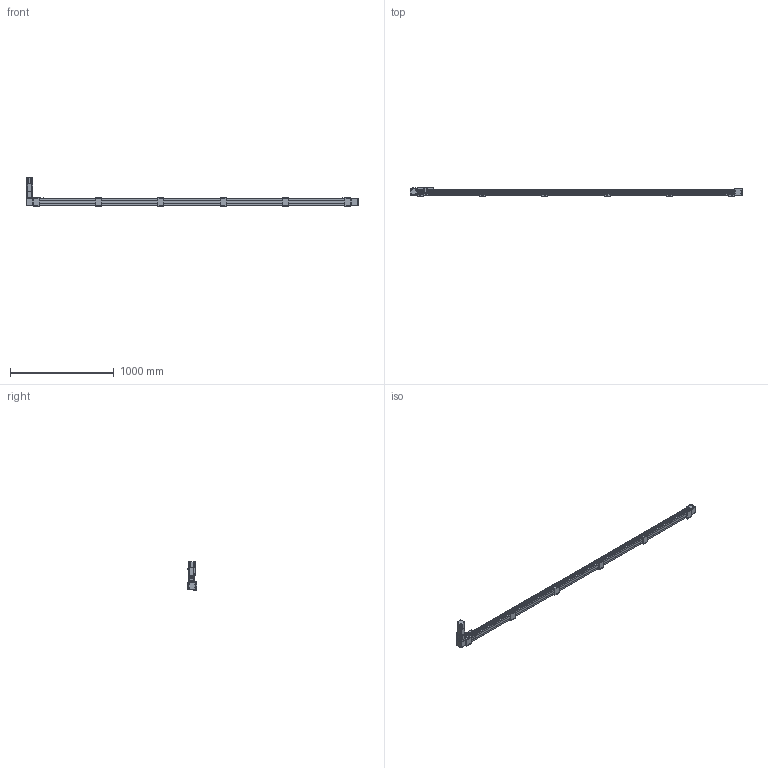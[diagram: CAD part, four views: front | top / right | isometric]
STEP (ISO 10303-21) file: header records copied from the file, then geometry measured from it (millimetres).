
FILE_DESCRIPTION(/* description */ ('STEP AP203'),/* implementation_level */ '2;1');
FILE_NAME(/* name */ 'SK60-P13-S2900-BL-T40-C1-N(0)',/* time_stamp */ '2023-04-06T03:38:21+02:00',/* author */ ('License CC BY-ND 4.0'),/* organization */ ('CADENAS'),/* preprocessor_version */ 'ST-DEVELOPER v19.3',/* originating_system */ 'PARTsolutions',/* authorisation */ ' ');
FILE_SCHEMA (('CONFIG_CONTROL_DESIGN'));
Length unit declared in the file: millimetre
Products named in the file (11): SK60-P13-S2900-BL-T40-C1-N(0); PSC140-sensor; SK60-S450_seat; SK60-S450-BL-C1_slider; SK60_body3; SK60_body6; SK60-BL_body2; T40-p1; SK60_body5; SK60_body4; SK60-S2900-BL-C1_body
Assembly tree (21 placements, depth 2):
  SK60-P13-S2900-BL-T40-C1-N(0)
    PSC140-sensor  x3
    SK60-S450_seat  x6
    SK60-S450-BL-C1_slider
    SK60_body3  x3
    SK60_body6  x2
    SK60-BL_body2  x2
    T40-p1
    SK60_body5
    SK60_body4
    SK60-S2900-BL-C1_body
Bounding box: 3200 x 90 x 278.2 mm (x, y, z)
Volume: 11456829.1 mm3; surface area: 1379742.8 mm2
Topology: 21 solids, 25 shells, 1010 faces, 2501 edges, 1650 vertices
Faces by surface type: plane 640, cylinder 330, cone 38, torus 2
Full cylindrical faces by diameter (mm): 2.8 x3, 3.3 x4, 4.2 x8, 4.5 x26, 4.6 x3, 4.917 x32, 5 x2, 5.478 x4, 5.5 x35, 6.5 x12, 8 x4, 8.5 x4, 9.988 x4, 10 x24, 13.556 x1, 14 x1, 14.586 x1, 19.692 x1, 38.432 x2, 43 x1, 44 x3, 47 x2, 50 x2
Entity records: 19403 total; most frequent: DIRECTION 3300, CARTESIAN_POINT 3293, ORIENTED_EDGE 3050, EDGE_CURVE 1525, AXIS2_PLACEMENT_3D 1104, LINE 1092, VECTOR 1092, VERTEX_POINT 1077
